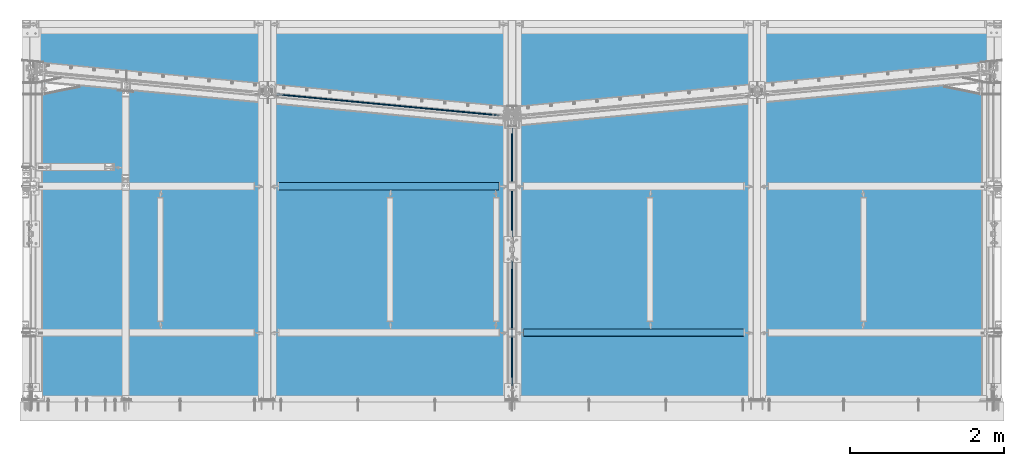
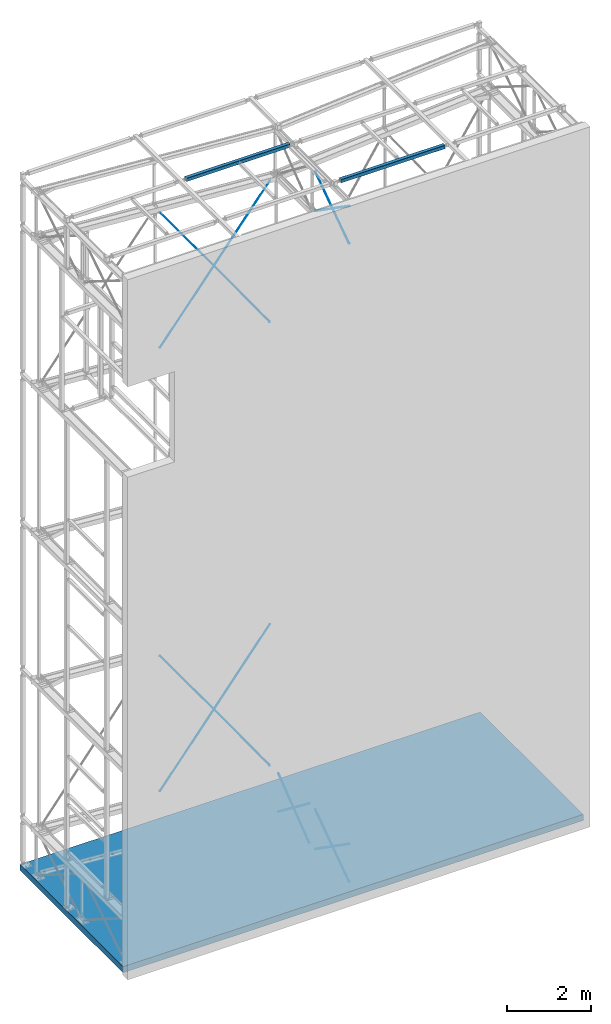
# One storey, part 18 of 271: 10 members, 3 beams, 13 elements without a shape of their own.
"""IFC2X3 building model written with IfcOpenShell, lengths in millimetres."""

from ifc_helpers import new_model, si_unit, frame, origin_with_axes, origin_2d_with_axis, place, context, subcontext, project, spatial, rectangle, hollow_rectangle, circle, extrude, clip, halfspace, material, type_object, element, aggregate, save


model = new_model("IFC2X3")

# Units and contexts
model_context = context("Model", 3, precision=1e-05, world=origin_with_axes())
body_context = subcontext(model_context, "Body", "Model", "MODEL_VIEW")
ifc_project = project(units=[si_unit("LENGTHUNIT", "METRE", prefix="MILLI"), si_unit("AREAUNIT", "SQUARE_METRE"), si_unit("VOLUMEUNIT", "CUBIC_METRE"), si_unit("MASSUNIT", "GRAM", prefix="KILO"), si_unit("TIMEUNIT", "SECOND"), si_unit("PLANEANGLEUNIT", "RADIAN"), si_unit("SOLIDANGLEUNIT", "STERADIAN"), si_unit("THERMODYNAMICTEMPERATUREUNIT", "DEGREE_CELSIUS"), si_unit("LUMINOUSINTENSITYUNIT", "LUMEN")], contexts=[model_context])

# Site, building, storey
site_placement = place(None, origin_with_axes())
site = spatial("IfcSite", under=ifc_project, at=site_placement, Name="Undefined", CompositionType="ELEMENT")
building_placement = place(site_placement, origin_with_axes())
building = spatial("IfcBuilding", under=site, at=building_placement, Name="Undefined", CompositionType="ELEMENT")
storey_placement = place(building_placement, origin_with_axes())
storey = spatial("IfcBuildingStorey", under=building, at=storey_placement, Name="Undefined", CompositionType="ELEMENT", Elevation=0.0)

# Assembly, beam
assembly_1_placement = place(storey_placement, origin_with_axes())
assembly_1 = element("IfcElementAssembly", 1, at=assembly_1_placement, inside=storey, Name="BELKA", AssemblyPlace="NOTDEFINED", PredefinedType="REINFORCEMENT_UNIT")
ifc_material_1 = material(Name="CONCRETE/C25/30")
beam_type_1 = type_object("IfcBeamType", Name="180*4935", PredefinedType="NOTDEFINED")
beam_1_placement = place(assembly_1_placement, frame((-11.6243129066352, 2491.82498425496, -105.650000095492), z_axis=(0.0, 0.0, 1.0), x_axis=(1.0, 0.0, 0.0)))
beam_1 = element("IfcBeam", 2, at=beam_1_placement, type_object=beam_type_1, material=ifc_material_1, Name="BELKA", ObjectType="180*4935", context=body_context, shape_type="SweptSolid", body=[
    extrude(rectangle(XDim=4935.0, YDim=180.0, at=origin_2d_with_axis()), frame((12720.0, 0.0, 0.0), z_axis=(-1.0, 0.0, 1.38777878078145e-17), x_axis=(0.0, -1.0, 0.0)), (0.0, 0.0, 1.0), 12720.0),
])
aggregate(assembly_1, [beam_1])

assembly_2_placement = place(storey_placement, origin_with_axes())
assembly_2 = element("IfcElementAssembly", 3, at=assembly_2_placement, inside=storey, AssemblyPlace="NOTDEFINED", PredefinedType="RIGID_FRAME")
ifc_material_2 = material(Name="STEEL/S355JR")
beam_type_2 = type_object("IfcBeamType", Name="SHS100*3", PredefinedType="NOTDEFINED")
beam_2_placement = place(assembly_2_placement, frame((6348.37568709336, 899.32498425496, 20154.3499999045), z_axis=(0.0, 1.0, 0.0), x_axis=(1.0, 0.0, 0.0)))
beam_2 = element("IfcBeam", 4, at=beam_2_placement, type_object=beam_type_2, material=ifc_material_2, Name="RYGIEL", ObjectType="SHS100*3", context=body_context, shape_type="Clipping", body=[
    clip(clip(extrude(hollow_rectangle(XDim=100.0, YDim=100.0, WallThickness=3.0, InnerFilletRadius=3.0, OuterFilletRadius=6.0, at=origin_2d_with_axis()), frame((3180.0, 0.0, 0.0), z_axis=(-1.0, 0.0, 1.38777878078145e-17), x_axis=(0.0, -1.0, 0.0)), (0.0, 0.0, 1.0), 3180.0), halfspace(frame((3012.0, 0.0, -15.0), z_axis=(-1.0, 0.0, 1.38777878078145e-17), x_axis=(0.0, 1.0, 0.0)), True)), halfspace(frame((148.000000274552, 0.0, -15.0), z_axis=(1.0, 0.0, 0.0), x_axis=(0.0, -1.0, 0.0)), True)),
])
aggregate(assembly_2, [beam_2])

assembly_3_placement = place(storey_placement, origin_with_axes())
assembly_3 = element("IfcElementAssembly", 5, at=assembly_3_placement, inside=storey, AssemblyPlace="NOTDEFINED", PredefinedType="RIGID_FRAME")
beam_3_placement = place(assembly_3_placement, frame((3168.37568709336, 2799.32498425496, 20154.3499999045), z_axis=(0.0, 1.0, 0.0), x_axis=(1.0, 0.0, 0.0)))
beam_3 = element("IfcBeam", 6, at=beam_3_placement, type_object=beam_type_2, material=ifc_material_2, Name="RYGIEL", ObjectType="SHS100*3", context=body_context, shape_type="Clipping", body=[
    clip(clip(extrude(hollow_rectangle(XDim=100.0, YDim=100.0, WallThickness=3.0, InnerFilletRadius=3.0, OuterFilletRadius=6.0, at=origin_2d_with_axis()), frame((3180.0, 0.0, 0.0), z_axis=(-1.0, 0.0, 1.38777878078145e-17), x_axis=(0.0, -1.0, 0.0)), (0.0, 0.0, 1.0), 3180.0), halfspace(frame((3012.0, 0.0, -15.0), z_axis=(-1.0, 0.0, 1.38777878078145e-17), x_axis=(0.0, 1.0, 0.0)), True)), halfspace(frame((148.000000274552, 0.0, -15.0), z_axis=(1.0, 0.0, 0.0), x_axis=(0.0, -1.0, 0.0)), True)),
])
aggregate(assembly_3, [beam_3])

# Assembly, member
assembly_4_placement = place(storey_placement, origin_with_axes())
assembly_4 = element("IfcElementAssembly", 7, at=assembly_4_placement, inside=storey, AssemblyPlace="NOTDEFINED", PredefinedType="RIGID_FRAME")
member_type = type_object("IfcMemberType", Name="D16", PredefinedType="NOTDEFINED")
member_1_placement = place(assembly_4_placement, frame((6347.37568767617, 21.1935505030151, 1364.3499999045), z_axis=(0.0, 0.572450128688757, 0.819939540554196), x_axis=(0.0, 0.819939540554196, -0.572450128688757)))
member_1 = element("IfcMember", 8, at=member_1_placement, type_object=member_type, material=ifc_material_2, Name="STĘŻENIE", ObjectType="D16", context=body_context, shape_type="Clipping", body=[
    clip(clip(extrude(circle(Radius=8.0, at=origin_2d_with_axis()), frame((2387.98094632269, 0.0, -1.32559571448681e-13), z_axis=(-1.0, 0.0, 1.38777878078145e-17), x_axis=(0.0, -1.0, 0.0)), (0.0, 0.0, 1.0), 2387.98), halfspace(frame((2204.15091611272, -18.0000003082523, -0.442583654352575), z_axis=(-0.999997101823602, 0.0, -0.00240755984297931), x_axis=(0.00240755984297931, 0.0, -0.999997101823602)), True)), halfspace(frame((232.777991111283, -16.0000003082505, 0.560428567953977), z_axis=(0.999997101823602, 0.0, 0.0024075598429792), x_axis=(-0.0024075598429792, 0.0, 0.999997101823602)), True)),
])
aggregate(assembly_4, [member_1])

assembly_5_placement = place(storey_placement, origin_with_axes())
assembly_5 = element("IfcElementAssembly", 9, at=assembly_5_placement, inside=storey, AssemblyPlace="NOTDEFINED", PredefinedType="RIGID_FRAME")
member_2_placement = place(assembly_5_placement, frame((6347.37568767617, 1979.19355050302, 1364.3499999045), z_axis=(0.0, 0.572558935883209, -0.819863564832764), x_axis=(0.0, -0.819863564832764, -0.572558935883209)))
member_2 = element("IfcMember", 10, at=member_2_placement, type_object=member_type, material=ifc_material_2, Name="STĘŻENIE", ObjectType="D16", context=body_context, shape_type="Clipping", body=[
    clip(extrude(circle(Radius=8.0, at=origin_2d_with_axis()), frame((2155.23664593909, 9.09494701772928e-13, -2.23820961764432e-13), z_axis=(-1.0, 0.0, 1.38777878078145e-17), x_axis=(0.0, -1.0, 0.0)), (0.0, 0.0, 1.0), 2155.24), halfspace(frame((183.910615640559, -18.0000003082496, 0.00441248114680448), z_axis=(0.999999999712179, 0.0, 2.39925309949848e-05), x_axis=(-2.39925309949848e-05, 0.0, 0.999999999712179)), True)),
])
aggregate(assembly_5, [member_2])

assembly_6_placement = place(storey_placement, origin_with_axes())
assembly_6 = element("IfcElementAssembly", 11, at=assembly_6_placement, inside=storey, AssemblyPlace="NOTDEFINED", PredefinedType="RIGID_FRAME")
member_3_placement = place(assembly_6_placement, frame((6347.37568767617, 1979.19355050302, 1364.3499999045), z_axis=(0.0, 0.608898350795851, 0.793248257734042), x_axis=(0.0, 0.793248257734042, -0.60889835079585)))
member_3 = element("IfcMember", 12, at=member_3_placement, type_object=member_type, material=ifc_material_2, Name="STĘŻENIE", ObjectType="D16", context=body_context, shape_type="Clipping", body=[
    clip(extrude(circle(Radius=8.0, at=origin_2d_with_axis()), frame((2023.32622184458, 0.0, 0.0), z_axis=(-1.0, 0.0, 1.38777878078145e-17), x_axis=(0.0, -1.0, 0.0)), (0.0, 0.0, 1.0), 2023.33), halfspace(frame((183.901761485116, -18.0000003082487, -3.18323145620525e-12), z_axis=(1.0, 0.0, 0.0), x_axis=(0.0, 0.0, 1.0)), True)),
])
aggregate(assembly_6, [member_3])

assembly_7_placement = place(storey_placement, origin_with_axes())
assembly_7 = element("IfcElementAssembly", 13, at=assembly_7_placement, inside=storey, AssemblyPlace="NOTDEFINED", PredefinedType="RIGID_FRAME")
member_4_placement = place(assembly_7_placement, frame((6347.37568767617, 3750.19355050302, 1364.3499999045), z_axis=(0.0, 0.611027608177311, -0.791609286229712), x_axis=(0.0, -0.791609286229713, -0.611027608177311)))
member_4 = element("IfcMember", 14, at=member_4_placement, type_object=member_type, material=ifc_material_2, Name="STĘŻENIE", ObjectType="D16", context=body_context, shape_type="Clipping", body=[
    clip(clip(extrude(circle(Radius=8.0, at=origin_2d_with_axis()), frame((2237.21478629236, 0.0, 0.0), z_axis=(-1.0, 0.0, 1.38777878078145e-17), x_axis=(0.0, -1.0, 0.0)), (0.0, 0.0, 1.0), 2237.21), halfspace(frame((2053.29597288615, -18.0000003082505, 0.456414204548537), z_axis=(-0.999996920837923, 0.0, 0.00248159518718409), x_axis=(-0.00248159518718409, 0.0, -0.999996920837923)), True)), halfspace(frame((199.525213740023, -16.0000003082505, -6.82121026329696e-13), z_axis=(1.0, 0.0, 0.0), x_axis=(0.0, 0.0, 1.0)), True)),
])
aggregate(assembly_7, [member_4])

assembly_8_placement = place(storey_placement, origin_with_axes())
assembly_8 = element("IfcElementAssembly", 15, at=assembly_8_placement, inside=storey, AssemblyPlace="NOTDEFINED", PredefinedType="RIGID_FRAME")
member_5_placement = place(assembly_8_placement, frame((6347.37568767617, 21.1935505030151, 18644.3499999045), z_axis=(0.0, 0.570474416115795, -0.821315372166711), x_axis=(0.0, 0.821315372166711, 0.570474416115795)))
member_5 = element("IfcMember", 16, at=member_5_placement, type_object=member_type, material=ifc_material_2, Name="STĘŻENIE", ObjectType="D16", context=body_context, shape_type="Clipping", body=[
    clip(clip(extrude(circle(Radius=8.0, at=origin_2d_with_axis()), frame((2383.98070461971, -9.09494701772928e-13, -1.81898940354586e-12), z_axis=(-1.0, 0.0, 1.38777878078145e-17), x_axis=(0.0, -1.0, 0.0)), (0.0, 0.0, 1.0), 2383.98), halfspace(frame((2200.15014141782, 17.9999996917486, -1.34605215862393e-10), z_axis=(-1.0, 0.0, 1.38777878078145e-17), x_axis=(0.0, 0.0, 1.0)), True)), halfspace(frame((232.778663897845, 15.9999996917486, 5.45696821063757e-11), z_axis=(1.0, 0.0, 0.0), x_axis=(0.0, 0.0, -1.0)), True)),
])
aggregate(assembly_8, [member_5])

assembly_9_placement = place(storey_placement, origin_with_axes())
assembly_9 = element("IfcElementAssembly", 17, at=assembly_9_placement, inside=storey, AssemblyPlace="NOTDEFINED", PredefinedType="RIGID_FRAME")
member_6_placement = place(assembly_9_placement, frame((6347.37568767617, 1979.19355050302, 18644.3499999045), z_axis=(0.0, 0.570474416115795, 0.821315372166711), x_axis=(0.0, -0.821315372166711, 0.570474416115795)))
member_6 = element("IfcMember", 18, at=member_6_placement, type_object=member_type, material=ifc_material_2, Name="STĘŻENIE", ObjectType="D16", context=body_context, shape_type="Clipping", body=[
    clip(clip(extrude(circle(Radius=8.0, at=origin_2d_with_axis()), frame((2383.98070461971, -9.09494701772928e-13, -1.81898940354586e-12), z_axis=(-1.0, 0.0, 1.38777878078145e-17), x_axis=(0.0, -1.0, 0.0)), (0.0, 0.0, 1.0), 2383.98), halfspace(frame((2151.64026885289, 15.9999996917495, 5.45696821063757e-11), z_axis=(-1.0, 0.0, 1.38777878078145e-17), x_axis=(0.0, 0.0, 1.0)), True)), halfspace(frame((184.268792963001, 17.9999996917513, -4.72937244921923e-11), z_axis=(1.0, 0.0, 0.0), x_axis=(0.0, 0.0, -1.0)), True)),
])
aggregate(assembly_9, [member_6])

assembly_10_placement = place(storey_placement, origin_with_axes())
assembly_10 = element("IfcElementAssembly", 19, at=assembly_10_placement, inside=storey, AssemblyPlace="NOTDEFINED", PredefinedType="RIGID_FRAME")
member_7_placement = place(assembly_10_placement, frame((3168.37568709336, 4005.32498425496, 14324.3499999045), z_axis=(0.0318275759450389, 0.998497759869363, 0.0446007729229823), x_axis=(0.580001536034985, -0.0547925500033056, 0.812770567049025)))
member_7 = element("IfcMember", 20, at=member_7_placement, type_object=member_type, material=ifc_material_2, Name="STĘŻENIE", ObjectType="D16", context=body_context, shape_type="Clipping", body=[
    clip(clip(extrude(circle(Radius=8.0, at=origin_2d_with_axis()), frame((5311.09291574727, 1.81898940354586e-12, -3.68531102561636e-14), z_axis=(-1.0, 0.0, 1.38777878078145e-17), x_axis=(0.0, -1.0, 0.0)), (0.0, 0.0, 1.0), 5311.09), halfspace(frame((5191.43356595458, -1.14597134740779, -14.9560399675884), z_axis=(-1.0, 0.0, 1.38777878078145e-17), x_axis=(1.76660250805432e-11, 0.997077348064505, -0.0763987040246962)), True)), halfspace(frame((228.658079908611, -1.39020359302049, -18.1306973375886), z_axis=(1.0, 0.0, 0.0), x_axis=(1.87597834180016e-10, -0.997073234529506, 0.0764523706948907)), True)),
])
aggregate(assembly_10, [member_7])

assembly_11_placement = place(storey_placement, origin_with_axes())
assembly_11 = element("IfcElementAssembly", 21, at=assembly_11_placement, inside=storey, AssemblyPlace="NOTDEFINED", PredefinedType="RIGID_FRAME")
member_8_placement = place(assembly_11_placement, frame((6248.81773710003, 3714.31665822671, 14321.049999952), z_axis=(0.0317632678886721, 0.998500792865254, -0.0445787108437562), x_axis=(-0.57941616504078, 0.0547372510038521, 0.813191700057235)))
member_8 = element("IfcMember", 22, at=member_8_placement, type_object=member_type, material=ifc_material_2, Name="STĘŻENIE", ObjectType="D16", context=body_context, shape_type="Clipping", body=[
    clip(clip(extrude(circle(Radius=8.0, at=origin_2d_with_axis()), frame((5316.4585918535, 1.59624613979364e-13, -4.91637692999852e-13), z_axis=(-1.0, 0.0, 1.38777878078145e-17), x_axis=(0.0, -1.0, 0.0)), (0.0, 0.0, 1.0), 5316.46), halfspace(frame((5087.64054439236, -1.39207928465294, -18.1457576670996), z_axis=(-1.0, 0.0, 1.38777878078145e-17), x_axis=(-1.50484993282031e-11, 0.997070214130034, -0.0764917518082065)), True)), halfspace(frame((127.732142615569, -0.382181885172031, -4.9852513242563), z_axis=(1.0, 0.0, 0.0), x_axis=(-4.42529199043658e-10, -0.997074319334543, 0.0764382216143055)), True)),
])
aggregate(assembly_11, [member_8])

assembly_12_placement = place(storey_placement, origin_with_axes())
assembly_12 = element("IfcElementAssembly", 23, at=assembly_12_placement, inside=storey, AssemblyPlace="NOTDEFINED", PredefinedType="RIGID_FRAME")
member_9_placement = place(assembly_12_placement, frame((3168.37568709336, 4005.32498425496, 1364.34999990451), z_axis=(0.0318275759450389, 0.998497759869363, 0.0446007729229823), x_axis=(0.580001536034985, -0.0547925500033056, 0.812770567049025)))
member_9 = element("IfcMember", 24, at=member_9_placement, type_object=member_type, material=ifc_material_2, Name="STĘŻENIE", ObjectType="D16", context=body_context, shape_type="Clipping", body=[
    clip(clip(extrude(circle(Radius=8.0, at=origin_2d_with_axis()), frame((5311.09291574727, 1.81898940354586e-12, -3.68531102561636e-14), z_axis=(-1.0, 0.0, 1.38777878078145e-17), x_axis=(0.0, -1.0, 0.0)), (0.0, 0.0, 1.0), 5311.09), halfspace(frame((5191.43356595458, -1.14597134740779, -14.9560399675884), z_axis=(-1.0, 0.0, 1.38777878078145e-17), x_axis=(1.76660250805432e-11, 0.997077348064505, -0.0763987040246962)), True)), halfspace(frame((228.658079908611, -1.39020359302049, -18.1306973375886), z_axis=(1.0, 0.0, 0.0), x_axis=(1.87597834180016e-10, -0.997073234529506, 0.0764523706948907)), True)),
])
aggregate(assembly_12, [member_9])

assembly_13_placement = place(storey_placement, origin_with_axes())
assembly_13 = element("IfcElementAssembly", 25, at=assembly_13_placement, inside=storey, AssemblyPlace="NOTDEFINED", PredefinedType="RIGID_FRAME")
member_10_placement = place(assembly_13_placement, frame((6248.81773710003, 3714.31665822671, 1361.04999995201), z_axis=(0.0317632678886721, 0.998500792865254, -0.0445787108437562), x_axis=(-0.57941616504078, 0.0547372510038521, 0.813191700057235)))
member_10 = element("IfcMember", 26, at=member_10_placement, type_object=member_type, material=ifc_material_2, Name="STĘŻENIE", ObjectType="D16", context=body_context, shape_type="Clipping", body=[
    clip(clip(extrude(circle(Radius=8.0, at=origin_2d_with_axis()), frame((5316.4585918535, 1.59624613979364e-13, -4.91637692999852e-13), z_axis=(-1.0, 0.0, 1.38777878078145e-17), x_axis=(0.0, -1.0, 0.0)), (0.0, 0.0, 1.0), 5316.46), halfspace(frame((5087.64055224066, -1.39161601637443, -18.1397209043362), z_axis=(-1.0, 0.0, 1.38777878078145e-17), x_axis=(-1.50484993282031e-11, 0.997070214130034, -0.0764917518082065)), True)), halfspace(frame((127.732142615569, -0.382181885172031, -4.9852513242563), z_axis=(1.0, 0.0, 0.0), x_axis=(-4.42529199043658e-10, -0.997074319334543, 0.0764382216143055)), True)),
])
aggregate(assembly_13, [member_10])

save(model, "model.ifc")
